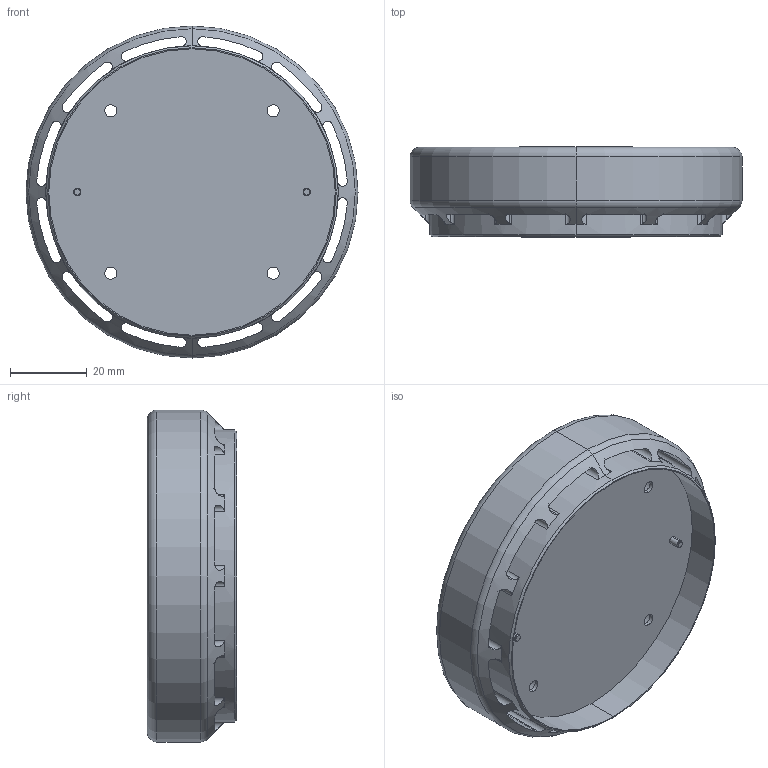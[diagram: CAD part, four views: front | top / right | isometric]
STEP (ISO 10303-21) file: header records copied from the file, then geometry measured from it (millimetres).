
FILE_DESCRIPTION (( 'STEP AP214' ), '1' );
FILE_NAME ('320-102677-C TopCapAddOnHalo.STEP', '2020-05-20T18:23:49', ( '' ), ( '' ), 'SwSTEP 2.0', 'SolidWorks 2018', '' );
FILE_SCHEMA (( 'AUTOMOTIVE_DESIGN' ));
Length unit declared in the file: millimetre
Products named in the file (1): 320-102677-C TopCapAddOnHalo
Bounding box: 86.79 x 23.4 x 86.79 mm (x, y, z)
Volume: 33170.4 mm3; surface area: 26593.1 mm2
Topology: 1 solids, 1 shells, 146 faces, 463 edges, 303 vertices
Faces by surface type: cylinder 87, plane 34, torus 17, cone 8
Entity records: 5715 total; most frequent: CARTESIAN_POINT 1375, DIRECTION 957, ORIENTED_EDGE 926, EDGE_CURVE 463, AXIS2_PLACEMENT_3D 383, VERTEX_POINT 303, CIRCLE 236, VECTOR 191
